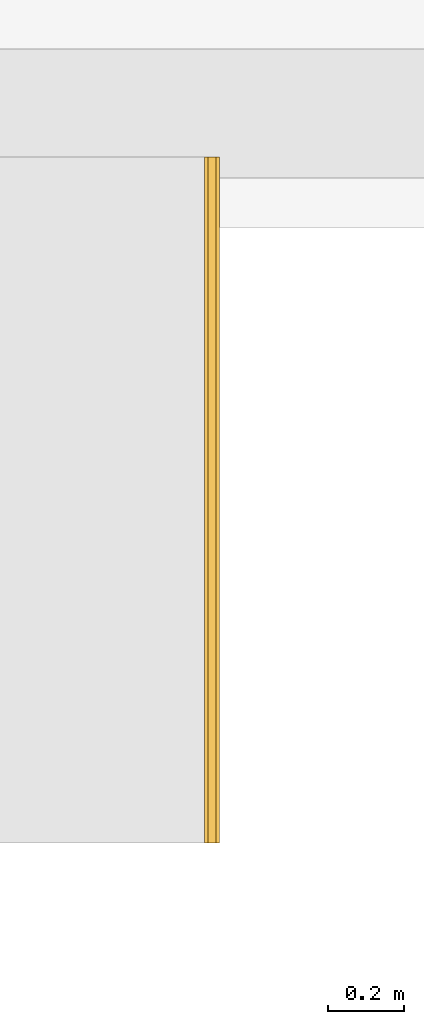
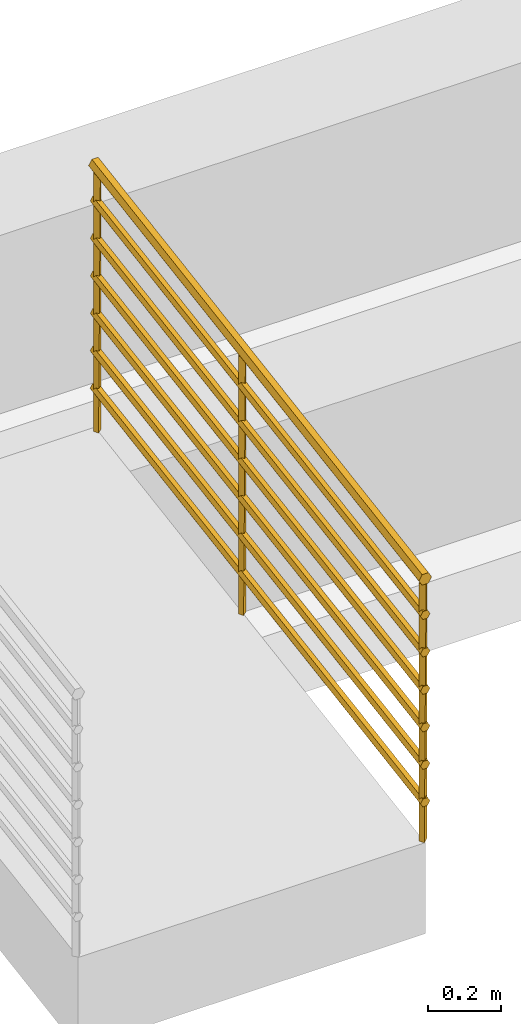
# One storey, part 4 of 8: 1 railing, 1 element without a shape of its own.
"""IFC2X3 building model written with IfcOpenShell, lengths in millimetres."""

from ifc_helpers import new_model, entity, si_unit, converted_unit, derived_unit, direction, frame, origin, place, context, subcontext, project, spatial, faceted_brep, element, aggregate, save


model = new_model("IFC2X3")

# Units and contexts
model_context = context("Model", 3, precision=0.01, world=origin(), true_north=direction((6.12303176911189e-17, 1.0)))
body_context = subcontext(model_context, "Body", "Model", "MODEL_VIEW")
ifc_project = project(units=[si_unit("LENGTHUNIT", "METRE", prefix="MILLI"), si_unit("AREAUNIT", "SQUARE_METRE"), si_unit("VOLUMEUNIT", "CUBIC_METRE"), converted_unit("PLANEANGLEUNIT", "DEGREE", entity("IfcRatioMeasure", 0.0174532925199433), si_unit("PLANEANGLEUNIT", "RADIAN"), dimensions=[0, 0, 0, 0, 0, 0, 0]), si_unit("MASSUNIT", "GRAM", prefix="KILO"), derived_unit("MASSDENSITYUNIT", [(si_unit("MASSUNIT", "GRAM", prefix="KILO"), 1), (si_unit("LENGTHUNIT", "METRE"), -3)]), si_unit("TIMEUNIT", "SECOND"), si_unit("FREQUENCYUNIT", "HERTZ"), si_unit("THERMODYNAMICTEMPERATUREUNIT", "DEGREE_CELSIUS"), derived_unit("THERMALTRANSMITTANCEUNIT", [(si_unit("MASSUNIT", "GRAM", prefix="KILO"), 1), (si_unit("THERMODYNAMICTEMPERATUREUNIT", "KELVIN"), -1), (si_unit("TIMEUNIT", "SECOND"), -3)]), derived_unit("VOLUMETRICFLOWRATEUNIT", [(si_unit("LENGTHUNIT", "METRE"), 3), (si_unit("TIMEUNIT", "SECOND"), -1)]), si_unit("ELECTRICCURRENTUNIT", "AMPERE"), si_unit("ELECTRICVOLTAGEUNIT", "VOLT"), si_unit("POWERUNIT", "WATT"), si_unit("FORCEUNIT", "NEWTON", prefix="KILO"), si_unit("ILLUMINANCEUNIT", "LUX"), si_unit("LUMINOUSFLUXUNIT", "LUMEN"), si_unit("LUMINOUSINTENSITYUNIT", "CANDELA"), derived_unit("USERDEFINED", [(si_unit("MASSUNIT", "GRAM", prefix="KILO"), -1), (si_unit("LENGTHUNIT", "METRE"), -2), (si_unit("TIMEUNIT", "SECOND"), 3), (si_unit("LUMINOUSFLUXUNIT", "LUMEN"), 1)]), derived_unit("LINEARVELOCITYUNIT", [(si_unit("LENGTHUNIT", "METRE"), 1), (si_unit("TIMEUNIT", "SECOND"), -1)]), si_unit("PRESSUREUNIT", "PASCAL"), derived_unit("USERDEFINED", [(si_unit("LENGTHUNIT", "METRE"), -2), (si_unit("MASSUNIT", "GRAM", prefix="KILO"), 1), (si_unit("TIMEUNIT", "SECOND"), -2)])], contexts=[model_context])

# Site, building, storey
site_placement = place(None, origin())
site = spatial("IfcSite", under=ifc_project, at=site_placement, Name="Surface", CompositionType="ELEMENT")
building_placement = place(site_placement, origin())
building = spatial("IfcBuilding", under=site, at=building_placement, CompositionType="ELEMENT")
storey_placement = place(building_placement, frame((0.0, 0.0, -445.0)))
storey = spatial("IfcBuildingStorey", under=building, at=storey_placement, Name="T.O.F", CompositionType="ELEMENT", Elevation=-445.0)

# Ramp, railing
ramp_placement = place(storey_placement, origin())
ramp = element("IfcRamp", 1, at=ramp_placement, inside=storey, Name="Ramp:Ramp 2", ObjectType="Ramp:Ramp 2", ShapeType="NOTDEFINED")
railing_placement = place(ramp_placement, frame((-7713.47044231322, 1829.38365159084, 443.403360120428)))
railing = element("IfcRailing", 2, at=railing_placement, Name="Railing:900mm Pipe", ObjectType="Railing:900mm Pipe", PredefinedType="NOTDEFINED", context=body_context, shape_type="Brep", body=[
    faceted_brep([(9.09527223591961, 1001.27409890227, 1022.3383542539), (18.813760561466, 1013.46069780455, 1024.36362316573), (9.09527223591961, 1001.27409890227, 162.886962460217), (24.3767839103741, 1013.46069780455, 164.912231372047), (34.0952722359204, 1001.27409890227, 1022.3383542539), (34.0952722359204, 1001.27409890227, 162.886962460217), (24.3767839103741, 989.0875, 1020.31308534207), (18.813760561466, 989.0875, 160.861693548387)], [[[0, 1, 2]], [[3, 2, 1]], [[4, 5, 3]], [[1, 4, 3]], [[6, 5, 4]], [[7, 5, 6]], [[0, 2, 7]], [[6, 0, 7]], [[6, 4, 1, 0]], [[3, 5, 7, 2]]]),
    faceted_brep([(9.09527223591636, 1793.95643756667, 1150.19034436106), (18.8137605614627, 1806.14303646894, 1152.21561327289), (9.09527223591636, 1793.95643756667, 290.738952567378), (24.3767839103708, 1806.14303646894, 292.764221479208), (34.0952722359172, 1793.95643756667, 1150.19034436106), (34.0952722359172, 1793.95643756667, 290.738952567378), (24.3767839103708, 1781.7698386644, 1148.16507544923), (18.8137605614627, 1781.7698386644, 288.713683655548)], [[[0, 1, 2]], [[3, 2, 1]], [[4, 5, 3]], [[1, 4, 3]], [[6, 5, 4]], [[7, 5, 6]], [[0, 2, 7]], [[6, 0, 7]], [[6, 4, 1, 0]], [[3, 5, 7, 2]]]),
    faceted_brep([(9.09527223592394, 13.7740989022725, 863.064160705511), (18.8137605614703, 25.9606978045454, 865.08942961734), (9.09527223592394, 13.7740989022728, 3.61276891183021), (24.3767839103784, 25.9606978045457, 5.63803782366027), (34.0952722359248, 13.7740989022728, 863.064160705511), (34.0952722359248, 13.7740989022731, 3.61276891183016), (24.3767839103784, 1.58749999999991, 861.03889179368), (18.8137605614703, 1.58749999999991, 1.58749999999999)], [[[0, 1, 2]], [[3, 2, 1]], [[4, 5, 3]], [[1, 4, 3]], [[6, 5, 4]], [[7, 5, 6]], [[0, 2, 7]], [[6, 0, 7]], [[6, 4, 1, 0]], [[3, 5, 7, 2]]]),
    faceted_brep([(6.59527223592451, 1.27409890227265, 761.402783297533), (8.47027223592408, 1.27409890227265, 758.113216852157), (10.3452722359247, 1.27409890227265, 754.823650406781), (12.2202722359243, 1.27409890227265, 751.534083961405), (14.0952722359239, 1.27409890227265, 748.244517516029), (17.8452722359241, 1.27409890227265, 748.244517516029), (21.5952722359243, 1.27409890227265, 748.244517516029), (25.3452722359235, 1.27409890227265, 748.244517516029), (29.0952722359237, 1.27409890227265, 748.244517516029), (30.9702722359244, 1.27409890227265, 751.534083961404), (32.845272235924, 1.27409890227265, 754.82365040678), (34.7202722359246, 1.27409890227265, 758.113216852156), (36.5952722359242, 1.27409890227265, 761.402783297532), (35.1180665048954, 1.27409890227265, 763.994445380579), (33.6408607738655, 1.27409890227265, 766.586107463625), (31.3680665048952, 1.27409890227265, 770.57357827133), (29.0952722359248, 1.27409890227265, 774.561049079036), (25.3452722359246, 1.27409890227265, 774.561049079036), (21.5952722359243, 1.27409890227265, 774.561049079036), (17.8452722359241, 1.27409890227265, 774.561049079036), (14.0952722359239, 1.27409890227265, 774.561049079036), (12.2202722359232, 1.27409890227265, 771.27148263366), (10.3452722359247, 1.27409890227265, 767.981916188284), (8.07247796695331, 1.27409890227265, 763.994445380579), (6.59527223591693, 1806.45643756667, 1052.5612250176), (8.47027223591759, 1806.45643756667, 1055.85079146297), (10.3452722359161, 1806.45643756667, 1059.14035790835), (12.2202722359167, 1806.45643756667, 1062.42992435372), (14.0952722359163, 1806.45643756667, 1065.7194907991), (17.8452722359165, 1806.45643756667, 1065.7194907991), (21.5952722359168, 1806.45643756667, 1065.7194907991), (25.345272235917, 1806.45643756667, 1065.7194907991), (29.0952722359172, 1806.45643756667, 1065.7194907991), (30.9702722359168, 1806.45643756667, 1062.42992435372), (32.8452722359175, 1806.45643756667, 1059.14035790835), (34.7202722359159, 1806.45643756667, 1055.85079146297), (36.5952722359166, 1806.45643756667, 1052.5612250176), (35.1180665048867, 1806.45643756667, 1049.96956293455), (32.8452722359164, 1806.45643756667, 1045.98209212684), (30.9702722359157, 1806.45643756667, 1042.69252568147), (29.0952722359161, 1806.45643756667, 1039.40295923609), (25.345272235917, 1806.45643756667, 1039.40295923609), (21.5952722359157, 1806.45643756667, 1039.40295923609), (17.8452722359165, 1806.45643756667, 1039.40295923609), (14.0952722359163, 1806.45643756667, 1039.40295923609), (11.822477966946, 1806.45643756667, 1043.3904300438), (9.5496836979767, 1806.45643756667, 1047.3779008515), (8.07247796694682, 1806.45643756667, 1049.96956293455)], [[[0, 1, 2, 3, 4, 5, 6, 7, 8, 9, 10, 11, 12, 13, 14, 15, 16, 17, 18, 19, 20, 21, 22, 23]], [[24, 25, 26, 27, 28, 29, 30, 31, 32, 33, 34, 35, 36, 37, 38, 39, 40, 41, 42, 43, 44, 45, 46, 47]], [[16, 15, 14, 13, 12, 36, 35, 34, 33, 32]], [[22, 21, 20, 28, 27, 26, 25, 24, 0, 23]], [[18, 17, 16, 32, 31, 30, 29, 28, 20, 19]], [[44, 4, 3, 2, 1, 0, 24, 47, 46, 45]], [[41, 40, 8, 7, 6, 5, 4, 44, 43, 42]], [[37, 36, 12, 11, 10, 9, 8, 40, 39, 38]]]),
    faceted_brep([(6.59527223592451, 1.27409890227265, 636.402783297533), (8.47027223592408, 1.27409890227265, 633.113216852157), (10.3452722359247, 1.27409890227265, 629.823650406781), (12.2202722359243, 1.27409890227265, 626.534083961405), (14.0952722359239, 1.27409890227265, 623.244517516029), (17.8452722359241, 1.27409890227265, 623.244517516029), (21.5952722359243, 1.27409890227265, 623.244517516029), (25.3452722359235, 1.27409890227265, 623.244517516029), (29.0952722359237, 1.27409890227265, 623.244517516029), (30.9702722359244, 1.27409890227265, 626.534083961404), (32.845272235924, 1.27409890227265, 629.82365040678), (34.7202722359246, 1.27409890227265, 633.113216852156), (36.5952722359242, 1.27409890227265, 636.402783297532), (35.1180665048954, 1.27409890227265, 638.994445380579), (33.6408607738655, 1.27409890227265, 641.586107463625), (31.3680665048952, 1.27409890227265, 645.57357827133), (29.0952722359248, 1.27409890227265, 649.561049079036), (25.3452722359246, 1.27409890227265, 649.561049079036), (21.5952722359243, 1.27409890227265, 649.561049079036), (17.8452722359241, 1.27409890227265, 649.561049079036), (14.0952722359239, 1.27409890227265, 649.561049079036), (12.2202722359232, 1.27409890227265, 646.27148263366), (10.3452722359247, 1.27409890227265, 642.981916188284), (8.07247796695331, 1.27409890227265, 638.994445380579), (6.59527223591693, 1806.45643756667, 927.561225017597), (8.47027223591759, 1806.45643756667, 930.850791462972), (10.3452722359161, 1806.45643756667, 934.140357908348), (12.2202722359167, 1806.45643756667, 937.429924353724), (14.0952722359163, 1806.45643756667, 940.7194907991), (17.8452722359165, 1806.45643756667, 940.7194907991), (21.5952722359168, 1806.45643756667, 940.7194907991), (25.345272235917, 1806.45643756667, 940.7194907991), (29.0952722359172, 1806.45643756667, 940.7194907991), (30.9702722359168, 1806.45643756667, 937.429924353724), (32.8452722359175, 1806.45643756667, 934.140357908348), (34.7202722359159, 1806.45643756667, 930.850791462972), (36.5952722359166, 1806.45643756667, 927.561225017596), (35.1180665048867, 1806.45643756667, 924.96956293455), (32.8452722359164, 1806.45643756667, 920.982092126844), (30.9702722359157, 1806.45643756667, 917.692525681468), (29.0952722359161, 1806.45643756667, 914.402959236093), (25.345272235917, 1806.45643756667, 914.402959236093), (21.5952722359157, 1806.45643756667, 914.402959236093), (17.8452722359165, 1806.45643756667, 914.402959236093), (14.0952722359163, 1806.45643756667, 914.402959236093), (11.822477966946, 1806.45643756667, 918.390430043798), (9.5496836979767, 1806.45643756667, 922.377900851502), (8.07247796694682, 1806.45643756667, 924.969562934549)], [[[0, 1, 2, 3, 4, 5, 6, 7, 8, 9, 10, 11, 12, 13, 14, 15, 16, 17, 18, 19, 20, 21, 22, 23]], [[24, 25, 26, 27, 28, 29, 30, 31, 32, 33, 34, 35, 36, 37, 38, 39, 40, 41, 42, 43, 44, 45, 46, 47]], [[16, 15, 14, 13, 12, 36, 35, 34, 33, 32]], [[22, 21, 20, 28, 27, 26, 25, 24, 0, 23]], [[18, 17, 16, 32, 31, 30, 29, 28, 20, 19]], [[44, 4, 3, 2, 1, 0, 24, 47, 46, 45]], [[41, 40, 8, 7, 6, 5, 4, 44, 43, 42]], [[37, 36, 12, 11, 10, 9, 8, 40, 39, 38]]]),
    faceted_brep([(6.59527223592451, 1.27409890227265, 511.402783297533), (8.47027223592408, 1.27409890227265, 508.113216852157), (10.3452722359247, 1.27409890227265, 504.823650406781), (12.2202722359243, 1.27409890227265, 501.534083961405), (14.0952722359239, 1.27409890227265, 498.244517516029), (17.8452722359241, 1.27409890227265, 498.244517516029), (21.5952722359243, 1.27409890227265, 498.244517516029), (25.3452722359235, 1.27409890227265, 498.244517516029), (29.0952722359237, 1.27409890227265, 498.244517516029), (30.9702722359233, 1.27409890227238, 501.534083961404), (32.845272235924, 1.27409890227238, 504.82365040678), (34.7202722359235, 1.27409890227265, 508.113216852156), (36.5952722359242, 1.27409890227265, 511.402783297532), (35.1180665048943, 1.27409890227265, 513.994445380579), (33.6408607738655, 1.27409890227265, 516.586107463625), (31.3680665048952, 1.27409890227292, 520.57357827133), (29.0952722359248, 1.27409890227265, 524.561049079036), (25.3452722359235, 1.27409890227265, 524.561049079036), (21.5952722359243, 1.27409890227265, 524.561049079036), (17.845272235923, 1.27409890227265, 524.561049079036), (14.0952722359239, 1.27409890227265, 524.561049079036), (12.2202722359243, 1.27409890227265, 521.27148263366), (10.3452722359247, 1.27409890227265, 517.981916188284), (8.07247796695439, 1.27409890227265, 513.994445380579), (6.59527223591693, 1806.45643756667, 802.561225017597), (8.47027223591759, 1806.45643756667, 805.850791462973), (10.3452722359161, 1806.45643756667, 809.140357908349), (12.2202722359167, 1806.45643756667, 812.429924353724), (14.0952722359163, 1806.45643756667, 815.7194907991), (17.8452722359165, 1806.45643756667, 815.7194907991), (21.5952722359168, 1806.45643756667, 815.7194907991), (25.345272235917, 1806.45643756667, 815.7194907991), (29.0952722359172, 1806.45643756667, 815.7194907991), (30.9702722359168, 1806.45643756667, 812.429924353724), (32.8452722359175, 1806.45643756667, 809.140357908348), (34.7202722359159, 1806.45643756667, 805.850791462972), (36.5952722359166, 1806.45643756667, 802.561225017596), (35.1180665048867, 1806.45643756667, 799.96956293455), (32.8452722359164, 1806.45643756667, 795.982092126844), (30.9702722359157, 1806.45643756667, 792.692525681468), (29.0952722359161, 1806.45643756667, 789.402959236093), (25.345272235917, 1806.45643756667, 789.402959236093), (21.5952722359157, 1806.45643756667, 789.402959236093), (17.8452722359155, 1806.45643756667, 789.402959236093), (14.0952722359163, 1806.45643756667, 789.402959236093), (11.822477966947, 1806.45643756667, 793.390430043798), (9.5496836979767, 1806.45643756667, 797.377900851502), (8.07247796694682, 1806.45643756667, 799.96956293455)], [[[0, 1, 2, 3, 4, 5, 6, 7, 8, 9, 10, 11, 12, 13, 14, 15, 16, 17, 18, 19, 20, 21, 22, 23]], [[24, 25, 26, 27, 28, 29, 30, 31, 32, 33, 34, 35, 36, 37, 38, 39, 40, 41, 42, 43, 44, 45, 46, 47]], [[16, 15, 14, 13, 12, 36, 35, 34, 33, 32]], [[22, 21, 20, 28, 27, 26, 25, 24, 0, 23]], [[18, 17, 16, 32, 31, 30, 29, 28, 20, 19]], [[44, 4, 3, 2, 1, 0, 24, 47, 46, 45]], [[41, 40, 8, 7, 6, 5, 4, 44, 43, 42]], [[37, 36, 12, 11, 10, 9, 8, 40, 39, 38]]]),
    faceted_brep([(6.59527223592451, 1.27409890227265, 386.402783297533), (8.47027223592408, 1.27409890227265, 383.113216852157), (10.3452722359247, 1.27409890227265, 379.823650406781), (12.2202722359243, 1.27409890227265, 376.534083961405), (14.0952722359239, 1.27409890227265, 373.244517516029), (17.8452722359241, 1.27409890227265, 373.244517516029), (21.5952722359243, 1.27409890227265, 373.244517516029), (25.3452722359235, 1.27409890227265, 373.244517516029), (29.0952722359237, 1.27409890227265, 373.244517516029), (30.9702722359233, 1.27409890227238, 376.534083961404), (32.845272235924, 1.27409890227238, 379.82365040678), (34.7202722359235, 1.27409890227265, 383.113216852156), (36.5952722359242, 1.27409890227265, 386.402783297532), (35.1180665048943, 1.27409890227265, 388.994445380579), (33.6408607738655, 1.27409890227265, 391.586107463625), (31.3680665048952, 1.27409890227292, 395.57357827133), (29.0952722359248, 1.27409890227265, 399.561049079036), (25.3452722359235, 1.27409890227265, 399.561049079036), (21.5952722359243, 1.27409890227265, 399.561049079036), (17.845272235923, 1.27409890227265, 399.561049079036), (14.0952722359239, 1.27409890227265, 399.561049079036), (12.2202722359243, 1.27409890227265, 396.27148263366), (10.3452722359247, 1.27409890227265, 392.981916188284), (8.07247796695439, 1.27409890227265, 388.994445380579), (6.59527223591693, 1806.45643756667, 677.561225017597), (8.47027223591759, 1806.45643756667, 680.850791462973), (10.3452722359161, 1806.45643756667, 684.140357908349), (12.2202722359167, 1806.45643756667, 687.429924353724), (14.0952722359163, 1806.45643756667, 690.7194907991), (17.8452722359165, 1806.45643756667, 690.7194907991), (21.5952722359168, 1806.45643756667, 690.7194907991), (25.345272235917, 1806.45643756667, 690.7194907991), (29.0952722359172, 1806.45643756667, 690.7194907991), (30.9702722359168, 1806.45643756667, 687.429924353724), (32.8452722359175, 1806.45643756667, 684.140357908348), (34.7202722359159, 1806.45643756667, 680.850791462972), (36.5952722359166, 1806.45643756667, 677.561225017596), (35.1180665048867, 1806.45643756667, 674.96956293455), (32.8452722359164, 1806.45643756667, 670.982092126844), (30.9702722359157, 1806.45643756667, 667.692525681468), (29.0952722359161, 1806.45643756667, 664.402959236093), (25.345272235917, 1806.45643756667, 664.402959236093), (21.5952722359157, 1806.45643756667, 664.402959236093), (17.8452722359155, 1806.45643756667, 664.402959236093), (14.0952722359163, 1806.45643756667, 664.402959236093), (11.822477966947, 1806.45643756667, 668.390430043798), (9.5496836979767, 1806.45643756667, 672.377900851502), (8.07247796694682, 1806.45643756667, 674.96956293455)], [[[0, 1, 2, 3, 4, 5, 6, 7, 8, 9, 10, 11, 12, 13, 14, 15, 16, 17, 18, 19, 20, 21, 22, 23]], [[24, 25, 26, 27, 28, 29, 30, 31, 32, 33, 34, 35, 36, 37, 38, 39, 40, 41, 42, 43, 44, 45, 46, 47]], [[16, 15, 14, 13, 12, 36, 35, 34, 33, 32]], [[22, 21, 20, 28, 27, 26, 25, 24, 0, 23]], [[18, 17, 16, 32, 31, 30, 29, 28, 20, 19]], [[44, 4, 3, 2, 1, 0, 24, 47, 46, 45]], [[41, 40, 8, 7, 6, 5, 4, 44, 43, 42]], [[37, 36, 12, 11, 10, 9, 8, 40, 39, 38]]]),
    faceted_brep([(6.59527223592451, 1.27409890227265, 261.402783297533), (8.47027223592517, 1.27409890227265, 258.113216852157), (10.3452722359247, 1.27409890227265, 254.823650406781), (12.2202722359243, 1.27409890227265, 251.534083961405), (14.0952722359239, 1.27409890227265, 248.244517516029), (17.8452722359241, 1.27409890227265, 248.244517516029), (21.5952722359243, 1.27409890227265, 248.244517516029), (25.3452722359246, 1.27409890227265, 248.244517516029), (29.0952722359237, 1.27409890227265, 248.244517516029), (30.9702722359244, 1.27409890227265, 251.534083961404), (32.845272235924, 1.27409890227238, 254.82365040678), (34.7202722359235, 1.27409890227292, 258.113216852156), (36.5952722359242, 1.27409890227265, 261.402783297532), (35.1180665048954, 1.27409890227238, 263.994445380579), (33.6408607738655, 1.27409890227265, 266.586107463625), (31.3680665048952, 1.27409890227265, 270.57357827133), (29.0952722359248, 1.27409890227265, 274.561049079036), (25.3452722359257, 1.27409890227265, 274.561049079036), (21.5952722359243, 1.27409890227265, 274.561049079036), (17.8452722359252, 1.27409890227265, 274.561049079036), (14.0952722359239, 1.27409890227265, 274.561049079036), (12.2202722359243, 1.27409890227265, 271.27148263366), (10.3452722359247, 1.27409890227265, 267.981916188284), (8.07247796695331, 1.27409890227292, 263.994445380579), (6.59527223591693, 1806.45643756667, 552.561225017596), (8.4702722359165, 1806.45643756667, 555.850791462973), (10.3452722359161, 1806.45643756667, 559.140357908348), (12.2202722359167, 1806.45643756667, 562.429924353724), (14.0952722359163, 1806.45643756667, 565.7194907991), (17.8452722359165, 1806.45643756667, 565.7194907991), (21.5952722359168, 1806.45643756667, 565.7194907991), (25.345272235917, 1806.45643756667, 565.7194907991), (29.0952722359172, 1806.45643756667, 565.7194907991), (30.9702722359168, 1806.45643756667, 562.429924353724), (32.8452722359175, 1806.45643756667, 559.140357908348), (34.7202722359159, 1806.45643756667, 555.850791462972), (36.5952722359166, 1806.45643756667, 552.561225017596), (35.1180665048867, 1806.45643756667, 549.96956293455), (32.8452722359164, 1806.45643756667, 545.982092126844), (30.9702722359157, 1806.45643756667, 542.692525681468), (29.0952722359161, 1806.45643756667, 539.402959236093), (25.345272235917, 1806.45643756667, 539.402959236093), (21.5952722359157, 1806.45643756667, 539.402959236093), (17.8452722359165, 1806.45643756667, 539.402959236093), (14.0952722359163, 1806.45643756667, 539.402959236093), (11.822477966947, 1806.45643756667, 543.390430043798), (9.5496836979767, 1806.45643756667, 547.377900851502), (8.07247796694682, 1806.45643756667, 549.969562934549)], [[[0, 1, 2, 3, 4, 5, 6, 7, 8, 9, 10, 11, 12, 13, 14, 15, 16, 17, 18, 19, 20, 21, 22, 23]], [[24, 25, 26, 27, 28, 29, 30, 31, 32, 33, 34, 35, 36, 37, 38, 39, 40, 41, 42, 43, 44, 45, 46, 47]], [[16, 15, 14, 13, 12, 36, 35, 34, 33, 32]], [[22, 21, 20, 28, 27, 26, 25, 24, 0, 23]], [[18, 17, 16, 32, 31, 30, 29, 28, 20, 19]], [[44, 4, 3, 2, 1, 0, 24, 47, 46, 45]], [[41, 40, 8, 7, 6, 5, 4, 44, 43, 42]], [[37, 36, 12, 11, 10, 9, 8, 40, 39, 38]]]),
    faceted_brep([(6.59527223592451, 1.27409890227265, 136.402783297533), (8.47027223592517, 1.27409890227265, 133.113216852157), (10.3452722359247, 1.27409890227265, 129.823650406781), (12.2202722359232, 1.27409890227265, 126.534083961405), (14.0952722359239, 1.27409890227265, 123.244517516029), (17.845272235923, 1.27409890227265, 123.244517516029), (21.5952722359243, 1.27409890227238, 123.244517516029), (25.3452722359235, 1.27409890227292, 123.244517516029), (29.0952722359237, 1.27409890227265, 123.244517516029), (30.9702722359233, 1.27409890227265, 126.534083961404), (32.845272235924, 1.27409890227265, 129.82365040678), (34.7202722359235, 1.27409890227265, 133.113216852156), (36.5952722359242, 1.27409890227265, 136.402783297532), (35.1180665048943, 1.27409890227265, 138.994445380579), (33.6408607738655, 1.27409890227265, 141.586107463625), (31.3680665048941, 1.27409890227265, 145.57357827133), (29.0952722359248, 1.27409890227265, 149.561049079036), (25.3452722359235, 1.27409890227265, 149.561049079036), (21.5952722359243, 1.27409890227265, 149.561049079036), (17.845272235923, 1.27409890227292, 149.561049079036), (14.0952722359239, 1.27409890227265, 149.561049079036), (12.2202722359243, 1.27409890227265, 146.27148263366), (10.3452722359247, 1.27409890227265, 142.981916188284), (8.07247796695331, 1.27409890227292, 138.994445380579), (6.59527223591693, 1806.45643756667, 427.561225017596), (8.4702722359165, 1806.45643756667, 430.850791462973), (10.3452722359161, 1806.45643756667, 434.140357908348), (12.2202722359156, 1806.45643756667, 437.429924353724), (14.0952722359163, 1806.45643756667, 440.7194907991), (17.8452722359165, 1806.45643756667, 440.7194907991), (21.5952722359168, 1806.45643756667, 440.7194907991), (25.345272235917, 1806.45643756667, 440.7194907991), (29.0952722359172, 1806.45643756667, 440.7194907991), (30.9702722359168, 1806.45643756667, 437.429924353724), (32.8452722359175, 1806.45643756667, 434.140357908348), (34.7202722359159, 1806.45643756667, 430.850791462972), (36.5952722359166, 1806.45643756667, 427.561225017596), (35.1180665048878, 1806.45643756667, 424.96956293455), (32.8452722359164, 1806.45643756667, 420.982092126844), (30.9702722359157, 1806.45643756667, 417.692525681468), (29.0952722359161, 1806.45643756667, 414.402959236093), (25.3452722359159, 1806.45643756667, 414.402959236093), (21.5952722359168, 1806.45643756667, 414.402959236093), (17.8452722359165, 1806.45643756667, 414.402959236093), (14.0952722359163, 1806.45643756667, 414.402959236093), (11.822477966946, 1806.45643756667, 418.390430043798), (9.5496836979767, 1806.45643756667, 422.377900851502), (8.07247796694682, 1806.45643756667, 424.969562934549)], [[[0, 1, 2, 3, 4, 5, 6, 7, 8, 9, 10, 11, 12, 13, 14, 15, 16, 17, 18, 19, 20, 21, 22, 23]], [[24, 25, 26, 27, 28, 29, 30, 31, 32, 33, 34, 35, 36, 37, 38, 39, 40, 41, 42, 43, 44, 45, 46, 47]], [[16, 15, 14, 13, 12, 36, 35, 34, 33, 32]], [[22, 21, 20, 28, 27, 26, 25, 24, 0, 23]], [[18, 17, 16, 32, 31, 30, 29, 28, 20, 19]], [[44, 4, 3, 2, 1, 0, 24, 47, 46, 45]], [[41, 40, 8, 7, 6, 5, 4, 44, 43, 42]], [[37, 36, 12, 11, 10, 9, 8, 40, 39, 38]]]),
    faceted_brep([(34.0952722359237, 1.27409890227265, 868.179898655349), (36.5952722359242, 1.27409890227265, 872.565987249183), (39.0952722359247, 1.27409890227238, 876.952075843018), (41.5952722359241, 1.27409890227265, 881.338164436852), (39.3219666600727, 1.27409890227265, 885.326532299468), (37.0486610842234, 1.27409890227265, 889.314900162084), (34.3219666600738, 1.27409890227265, 894.098709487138), (31.5952722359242, 1.27409890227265, 898.882518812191), (26.5952722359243, 1.27409890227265, 898.882518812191), (21.5952722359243, 1.27409890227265, 898.882518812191), (16.5952722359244, 1.27409890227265, 898.882518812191), (11.5952722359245, 1.27409890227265, 898.882518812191), (9.09527223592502, 1.27409890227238, 894.496430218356), (6.59527223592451, 1.27409890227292, 890.110341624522), (3.868577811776, 1.27409890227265, 885.326532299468), (1.59527223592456, 1.27409890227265, 881.338164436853), (4.09527223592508, 1.27409890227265, 876.952075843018), (6.59527223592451, 1.27409890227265, 872.565987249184), (9.09527223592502, 1.27409890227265, 868.179898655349), (11.5952722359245, 1.27409890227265, 863.793810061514), (16.5952722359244, 1.27409890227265, 863.793810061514), (21.5952722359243, 1.27409890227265, 863.793810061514), (26.5952722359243, 1.27409890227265, 863.793810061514), (31.5952722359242, 1.27409890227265, 863.793810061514), (11.5952722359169, 1806.45643756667, 1154.95225178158), (8.86857781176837, 1806.45643756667, 1159.73606110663), (6.14188338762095, 1806.45643756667, 1164.51987043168), (3.86857781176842, 1806.45643756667, 1168.5082382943), (1.59527223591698, 1806.45643756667, 1172.49660615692), (4.0952722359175, 1806.45643756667, 1176.88269475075), (6.59527223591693, 1806.45643756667, 1181.26878334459), (9.09527223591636, 1806.45643756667, 1185.65487193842), (11.5952722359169, 1806.45643756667, 1190.04096053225), (16.5952722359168, 1806.45643756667, 1190.04096053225), (21.5952722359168, 1806.45643756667, 1190.04096053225), (26.5952722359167, 1806.45643756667, 1190.04096053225), (31.5952722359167, 1806.45643756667, 1190.04096053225), (34.0952722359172, 1806.45643756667, 1185.65487193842), (36.5952722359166, 1806.45643756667, 1181.26878334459), (39.095272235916, 1806.45643756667, 1176.88269475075), (41.5952722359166, 1806.45643756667, 1172.49660615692), (39.3219666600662, 1806.45643756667, 1168.5082382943), (36.5952722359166, 1806.45643756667, 1163.72442896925), (34.0952722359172, 1806.45643756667, 1159.33834037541), (31.5952722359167, 1806.45643756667, 1154.95225178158), (26.5952722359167, 1806.45643756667, 1154.95225178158), (21.5952722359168, 1806.45643756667, 1154.95225178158), (16.5952722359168, 1806.45643756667, 1154.95225178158)], [[[0, 1, 2, 3, 4, 5, 6, 7, 8, 9, 10, 11, 12, 13, 14, 15, 16, 17, 18, 19, 20, 21, 22, 23]], [[24, 25, 26, 27, 28, 29, 30, 31, 32, 33, 34, 35, 36, 37, 38, 39, 40, 41, 42, 43, 44, 45, 46, 47]], [[5, 4, 3, 40, 39, 38, 37, 36, 7, 6]], [[13, 12, 11, 32, 31, 30, 29, 28, 15, 14]], [[9, 8, 7, 36, 35, 34, 33, 32, 11, 10]], [[17, 16, 15, 28, 27, 26, 25, 24, 19, 18]], [[45, 44, 23, 22, 21, 20, 19, 24, 47, 46]], [[41, 40, 3, 2, 1, 0, 23, 44, 43, 42]]]),
])
aggregate(ramp, [railing])

save(model, "model.ifc")
